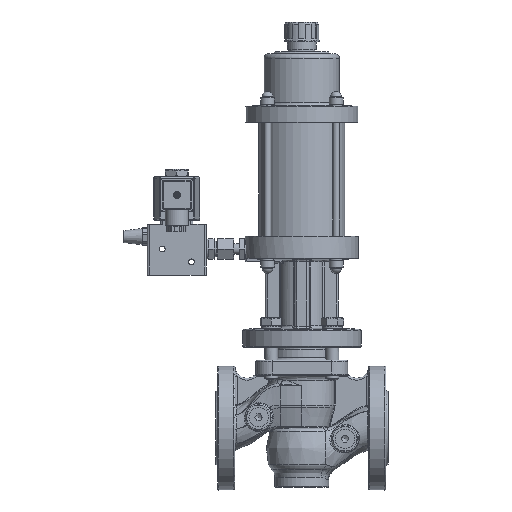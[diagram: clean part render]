
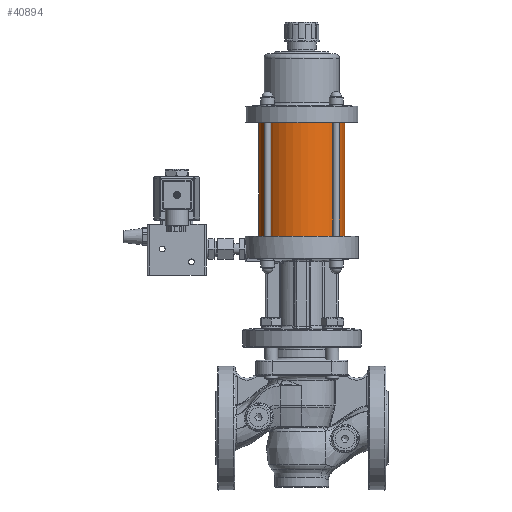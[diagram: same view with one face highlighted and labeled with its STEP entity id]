
A CAD part, front view. The second image highlights one B-rep face of the part: STEP entity #40894.
In plain terms, the highlighted cylindrical face has radius 40 mm (diameter 80 mm), a full revolution.
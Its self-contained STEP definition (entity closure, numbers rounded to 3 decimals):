
#9367=CARTESIAN_POINT('',(39.162,-8.142,283.0));
#9368=VERTEX_POINT('',#9367);
#9369=CARTESIAN_POINT('',(0.,0.,283.));
#9370=DIRECTION('',(0.,0.,-1.0));
#9371=DIRECTION('',(-0.979,0.204,0.));
#9372=AXIS2_PLACEMENT_3D('',#9369,#9370,#9371);
#9373=CIRCLE('',#9372,40.0);
#9374=EDGE_CURVE('',#9368,#9368,#9373,.T.);
#39674=CARTESIAN_POINT('',(39.162,-8.142,178.));
#39675=VERTEX_POINT('',#39674);
#39676=CARTESIAN_POINT('',(0.,0.,178.));
#39677=DIRECTION('',(0.,0.,-1.0));
#39678=DIRECTION('',(-0.979,0.204,0.));
#39679=AXIS2_PLACEMENT_3D('',#39676,#39677,#39678);
#39680=CIRCLE('',#39679,40.0);
#39681=EDGE_CURVE('',#39675,#39675,#39680,.T.);
#40883=CARTESIAN_POINT('',(0.,0.,178.));
#40884=DIRECTION('',(0.,0.,1.0));
#40885=DIRECTION('',(-0.979,0.204,0.));
#40886=AXIS2_PLACEMENT_3D('',#40883,#40884,#40885);
#40887=CYLINDRICAL_SURFACE('',#40886,40.0);
#40888=ORIENTED_EDGE('',*,*,#9374,.T.);
#40889=EDGE_LOOP('',(#40888));
#40890=FACE_OUTER_BOUND('',#40889,.T.);
#40891=ORIENTED_EDGE('',*,*,#39681,.F.);
#40892=EDGE_LOOP('',(#40891));
#40893=FACE_BOUND('',#40892,.T.);
#40894=ADVANCED_FACE('',(#40890,#40893),#40887,.T.);
